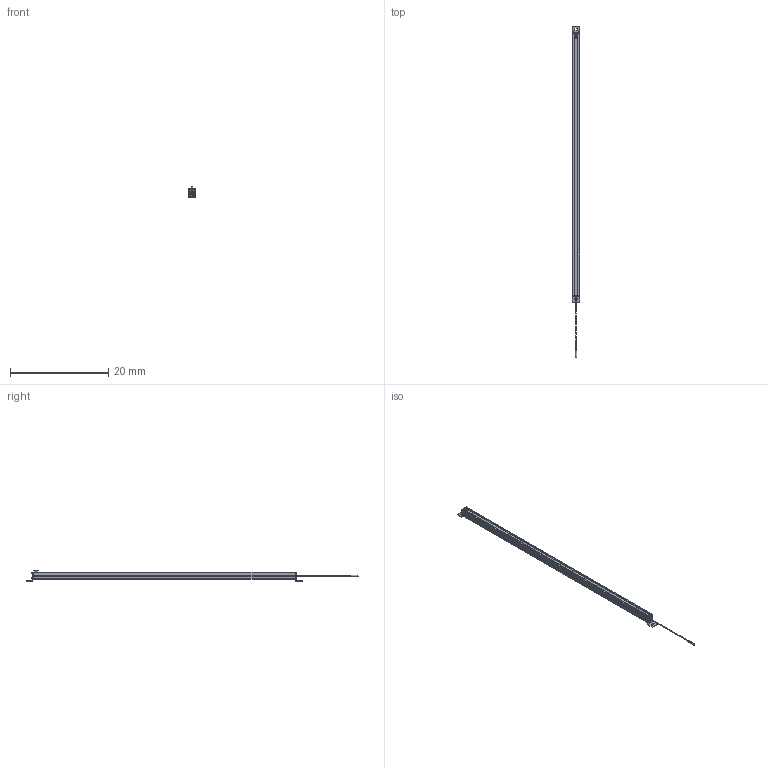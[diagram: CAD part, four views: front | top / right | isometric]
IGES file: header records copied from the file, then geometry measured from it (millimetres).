
Start section:  Autodesk DirectConnect version 7.0.27.0 ---- IGES version 5.3
Global section: file name: C:\ACADFILES\SS_PYLONS\CUSTOMER_FILES\SS-52-PYLON_3D_L.iges; native system: Autodesk DirectConnect 7.0.27.0; preprocessor: 7.0.27.0; author: ENGINEERMAIN; organization: Unknown; date: 20150810.125507; units: millimetre
Bounding box: 1.46 x 67.52 x 2.11 mm (x, y, z)
Surface area: 796.8 mm2 (no closed solid volume)
Topology: 0 solids, 0 shells, 475 faces, 2604 edges, 2623 vertices
Faces by surface type: bspline 475
